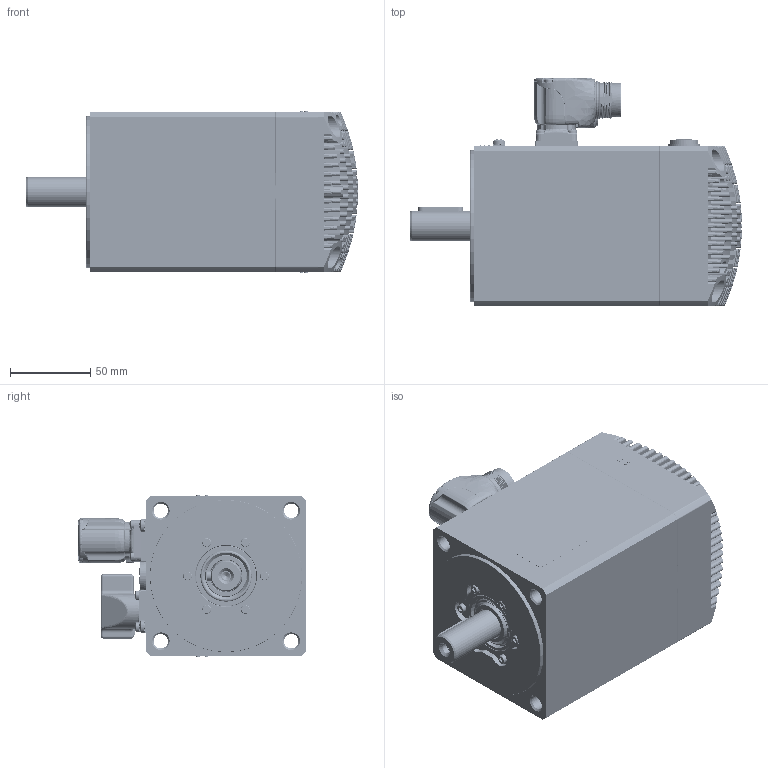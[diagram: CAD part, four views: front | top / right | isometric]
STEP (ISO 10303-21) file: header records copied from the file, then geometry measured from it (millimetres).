
FILE_DESCRIPTION((''),'2;1');
FILE_NAME('32190015741_ASM','2022-04-13T09:17:00',('gabrielec'),(''),'CREO PARAMETRIC BY PTC INC, 2021304','CREO PARAMETRIC BY PTC INC, 2021304','');
FILE_SCHEMA(('AP242_MANAGED_MODEL_BASED_3D_ENGINEERING_MIM_LF { 1 0 10303 442 1 1 4 }'));
Products named in the file (36): 50992N-0; 32149915563_ASM; 22320015079; 22320015079_ASM; 32050015014_ASM; 32060015580_ASM; 51941N-1; 32090015034_ASM; NRG_001; M3X16_GBT70-1; GB_T862_1; M4X8_GBT818_CU; 51093N-0; 32159915247_ASM; 22160015160; MENTOR-1292_9013; CEMBRE_FD9; CEMBRE_2053M16N; 32150015177_ASM; UNI7687_M3X8_INOX; CAN_OPEN; 33200203857_AF7_ASM; 31500203857_AF7_ASM; 50941N-0; UNI7687_M3X6_INOX; 22210015021; 32150015175_ASM; UNI5931_M4X16; LIP_SEAL_TW05; 22250015024; 22250015126; 43500000229; 43500000050; PHOENIX_1605512; L_6X6-28_UNI6604; 32190015741_ASM
Assembly tree (63 placements, depth 7):
  32190015741_ASM
    32159915247_ASM
      32149915563_ASM
        50992N-0
      32090015034_ASM
        32060015580_ASM
          32050015014_ASM
            22320015079_ASM
              22320015079
        51941N-1
      NRG_001  x6
      M3X16_GBT70-1  x6
      GB_T862_1  x2
      M4X8_GBT818_CU  x2
      51093N-0
    32150015177_ASM
      22160015160
      MENTOR-1292_9013  x8
      CEMBRE_FD9
      CEMBRE_2053M16N
    UNI7687_M3X8_INOX  x4
    31500203857_AF7_ASM
      33200203857_AF7_ASM
        CAN_OPEN
    50941N-0  x2
    UNI7687_M3X6_INOX  x3
    32150015175_ASM
      22210015021
    UNI5931_M4X16  x4
    LIP_SEAL_TW05
    22250015024
    22250015126
    43500000229
    43500000050
    PHOENIX_1605512
    L_6X6-28_UNI6604
Bounding box: 207 x 142.41 x 100.8 mm (x, y, z)
Volume: 644457.4 mm3; surface area: 323106.3 mm2
Topology: 73 solids, 99 shells, 4433 faces, 11163 edges, 7072 vertices
Faces by surface type: plane 1476, cylinder 1091, cone 653, bspline 596, torus 352, sphere 243, revolution 11, extrusion 11
Entity records: 191645 total; most frequent: CARTESIAN_POINT 66829, ORIENTED_EDGE 19634, DIRECTION 17762, PRESENTATION_STYLE_ASSIGNMENT 10128, STYLED_ITEM 9898, EDGE_CURVE 9870, CURVE_STYLE 9826, AXIS2_PLACEMENT_3D 6954
